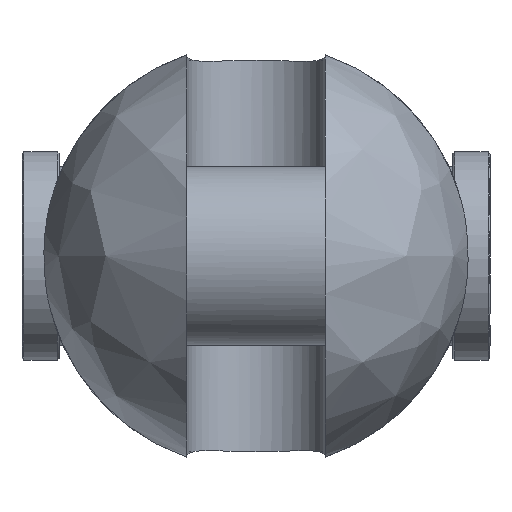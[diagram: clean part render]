
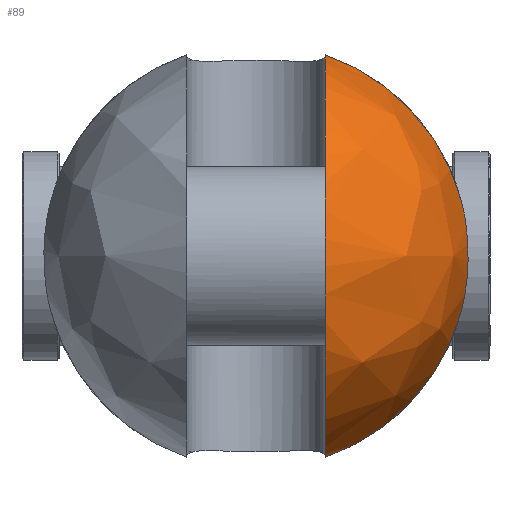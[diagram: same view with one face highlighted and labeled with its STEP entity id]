
A CAD part, left-side view. The second image highlights one B-rep face of the part: STEP entity #89.
In plain terms, the highlighted free-form (B-spline) face has degree [2, 2] with [9, 5] control points.
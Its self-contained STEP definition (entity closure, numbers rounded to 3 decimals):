
#89=ADVANCED_FACE('',(#164),#1306,.T.);
#164=FACE_OUTER_BOUND('',#249,.T.);
#249=EDGE_LOOP('',(#583,#584,#585,#586));
#583=ORIENTED_EDGE('',*,*,#811,.T.);
#584=ORIENTED_EDGE('',*,*,#835,.F.);
#585=ORIENTED_EDGE('',*,*,#847,.T.);
#586=ORIENTED_EDGE('',*,*,#827,.F.);
#811=EDGE_CURVE('',#1192,#1191,#1045,.T.);
#827=EDGE_CURVE('',#1192,#1204,#1055,.T.);
#835=EDGE_CURVE('',#1211,#1191,#1056,.T.);
#847=EDGE_CURVE('',#1211,#1204,#963,.T.);
#963=B_SPLINE_CURVE_WITH_KNOTS('',3,(#3152,#3153,#3154,#3155,#3156,#3157,
#3158,#3159,#3160,#3161,#3162,#3163,#3164,#3165),.UNSPECIFIED.,.F.,.F.,
(4,2,2,2,2,2,4),(0.,3.482,9.529,15.576,
21.623,27.67,31.152),.UNSPECIFIED.);
#1045=(
BOUNDED_CURVE()
B_SPLINE_CURVE(2,(#2920,#2921,#2922,#2923,#2924),.UNSPECIFIED.,.F.,.F.)
B_SPLINE_CURVE_WITH_KNOTS((3,2,3),(-169.377,-84.688,
0.),.UNSPECIFIED.)
CURVE()
GEOMETRIC_REPRESENTATION_ITEM()
RATIONAL_B_SPLINE_CURVE((1.,0.707,1.,0.707,1.))
REPRESENTATION_ITEM('')
);
#1055=(
BOUNDED_CURVE()
B_SPLINE_CURVE(2,(#3022,#3023,#3024),.UNSPECIFIED.,.F.,.F.)
B_SPLINE_CURVE_WITH_KNOTS((3,3),(0.,55.829),.UNSPECIFIED.)
CURVE()
GEOMETRIC_REPRESENTATION_ITEM()
RATIONAL_B_SPLINE_CURVE((1.,0.882,1.))
REPRESENTATION_ITEM('')
);
#1056=(
BOUNDED_CURVE()
B_SPLINE_CURVE(2,(#3079,#3080,#3081),.UNSPECIFIED.,.F.,.F.)
B_SPLINE_CURVE_WITH_KNOTS((3,3),(0.,55.829),.UNSPECIFIED.)
CURVE()
GEOMETRIC_REPRESENTATION_ITEM()
RATIONAL_B_SPLINE_CURVE((1.,0.882,1.))
REPRESENTATION_ITEM('')
);
#1191=VERTEX_POINT('',#2837);
#1192=VERTEX_POINT('',#2838);
#1204=VERTEX_POINT('',#2850);
#1211=VERTEX_POINT('',#2857);
#1306=(
BOUNDED_SURFACE()
B_SPLINE_SURFACE(2,2,((#2445,#2446,#2447,#2448,#2449),(#2450,#2451,#2452,
#2453,#2454),(#2455,#2456,#2457,#2458,#2459),(#2460,#2461,#2462,#2463,#2464),
(#2465,#2466,#2467,#2468,#2469),(#2470,#2471,#2472,#2473,#2474),(#2475,
#2476,#2477,#2478,#2479),(#2480,#2481,#2482,#2483,#2484),(#2485,#2486,#2487,
#2488,#2489)),.UNSPECIFIED.,.T.,.F.,.F.)
B_SPLINE_SURFACE_WITH_KNOTS((3,2,2,2,3),(3,2,3),(0.,89.535,179.071,
268.606,358.142),(0.,89.535,179.071),
 .UNSPECIFIED.)
GEOMETRIC_REPRESENTATION_ITEM()
RATIONAL_B_SPLINE_SURFACE(((1.,0.707,1.,0.707,1.),
(0.707,0.5,0.707,0.5,0.707),(1.,0.707,
1.,0.707,1.),(0.707,0.5,0.707,0.5,0.707),
(1.,0.707,1.,0.707,1.),(0.707,0.5,0.707,
0.5,0.707),(1.,0.707,1.,0.707,1.),(0.707,
0.5,0.707,0.5,0.707),(1.,0.707,1.,0.707,
1.)))
REPRESENTATION_ITEM('')
SURFACE()
);
#2445=CARTESIAN_POINT('',(-82.,0.,0.));
#2446=CARTESIAN_POINT('',(-82.,57.,0.));
#2447=CARTESIAN_POINT('',(-25.,57.,0.));
#2448=CARTESIAN_POINT('',(32.,57.,0.));
#2449=CARTESIAN_POINT('',(32.,0.,0.));
#2450=CARTESIAN_POINT('',(-82.,0.,0.));
#2451=CARTESIAN_POINT('',(-82.,57.,57.));
#2452=CARTESIAN_POINT('',(-25.,57.,57.));
#2453=CARTESIAN_POINT('',(32.,57.,57.));
#2454=CARTESIAN_POINT('',(32.,0.,0.));
#2455=CARTESIAN_POINT('',(-82.,0.,0.));
#2456=CARTESIAN_POINT('',(-82.,0.,57.));
#2457=CARTESIAN_POINT('',(-25.,0.,57.));
#2458=CARTESIAN_POINT('',(32.,0.,57.));
#2459=CARTESIAN_POINT('',(32.,0.,0.));
#2460=CARTESIAN_POINT('',(-82.,0.,0.));
#2461=CARTESIAN_POINT('',(-82.,-57.,57.));
#2462=CARTESIAN_POINT('',(-25.,-57.,57.));
#2463=CARTESIAN_POINT('',(32.,-57.,57.));
#2464=CARTESIAN_POINT('',(32.,0.,0.));
#2465=CARTESIAN_POINT('',(-82.,0.,0.));
#2466=CARTESIAN_POINT('',(-82.,-57.,0.));
#2467=CARTESIAN_POINT('',(-25.,-57.,0.));
#2468=CARTESIAN_POINT('',(32.,-57.,0.));
#2469=CARTESIAN_POINT('',(32.,0.,0.));
#2470=CARTESIAN_POINT('',(-82.,0.,0.));
#2471=CARTESIAN_POINT('',(-82.,-57.,-57.));
#2472=CARTESIAN_POINT('',(-25.,-57.,-57.));
#2473=CARTESIAN_POINT('',(32.,-57.,-57.));
#2474=CARTESIAN_POINT('',(32.,0.,0.));
#2475=CARTESIAN_POINT('',(-82.,0.,0.));
#2476=CARTESIAN_POINT('',(-82.,0.,-57.));
#2477=CARTESIAN_POINT('',(-25.,0.,-57.));
#2478=CARTESIAN_POINT('',(32.,0.,-57.));
#2479=CARTESIAN_POINT('',(32.,0.,0.));
#2480=CARTESIAN_POINT('',(-82.,0.,0.));
#2481=CARTESIAN_POINT('',(-82.,57.,-57.));
#2482=CARTESIAN_POINT('',(-25.,57.,-57.));
#2483=CARTESIAN_POINT('',(32.,57.,-57.));
#2484=CARTESIAN_POINT('',(32.,0.,0.));
#2485=CARTESIAN_POINT('',(-82.,0.,0.));
#2486=CARTESIAN_POINT('',(-82.,57.,0.));
#2487=CARTESIAN_POINT('',(-25.,57.,0.));
#2488=CARTESIAN_POINT('',(32.,57.,0.));
#2489=CARTESIAN_POINT('',(32.,0.,0.));
#2837=CARTESIAN_POINT('',(-25.,-18.5,-53.914));
#2838=CARTESIAN_POINT('',(-25.,-18.5,53.914));
#2850=CARTESIAN_POINT('',(-25.,-55.073,14.697));
#2857=CARTESIAN_POINT('',(-25.,-55.073,-14.697));
#2920=CARTESIAN_POINT('',(-25.,-18.5,53.914));
#2921=CARTESIAN_POINT('',(-78.914,-18.5,53.914));
#2922=CARTESIAN_POINT('',(-78.914,-18.5,0.));
#2923=CARTESIAN_POINT('',(-78.914,-18.5,-53.914));
#2924=CARTESIAN_POINT('',(-25.,-18.5,-53.914));
#3022=CARTESIAN_POINT('',(-25.,-18.5,53.914));
#3023=CARTESIAN_POINT('',(-25.,-47.239,44.053));
#3024=CARTESIAN_POINT('',(-25.,-55.073,14.697));
#3079=CARTESIAN_POINT('',(-25.,-55.073,-14.697));
#3080=CARTESIAN_POINT('',(-25.,-47.239,-44.053));
#3081=CARTESIAN_POINT('',(-25.,-18.5,-53.914));
#3152=CARTESIAN_POINT('',(-25.,-55.073,-14.697));
#3153=CARTESIAN_POINT('',(-25.579,-55.336,-13.712));
#3154=CARTESIAN_POINT('',(-26.105,-55.572,-12.684));
#3155=CARTESIAN_POINT('',(-27.372,-56.14,-9.787));
#3156=CARTESIAN_POINT('',(-27.989,-56.414,-7.85));
#3157=CARTESIAN_POINT('',(-28.803,-56.773,-3.924));
#3158=CARTESIAN_POINT('',(-29.,-56.859,-1.935));
#3159=CARTESIAN_POINT('',(-29.,-56.859,1.935));
#3160=CARTESIAN_POINT('',(-28.803,-56.773,3.924));
#3161=CARTESIAN_POINT('',(-27.989,-56.414,7.85));
#3162=CARTESIAN_POINT('',(-27.372,-56.14,9.787));
#3163=CARTESIAN_POINT('',(-26.105,-55.572,12.684));
#3164=CARTESIAN_POINT('',(-25.579,-55.336,13.712));
#3165=CARTESIAN_POINT('',(-25.,-55.073,14.697));
